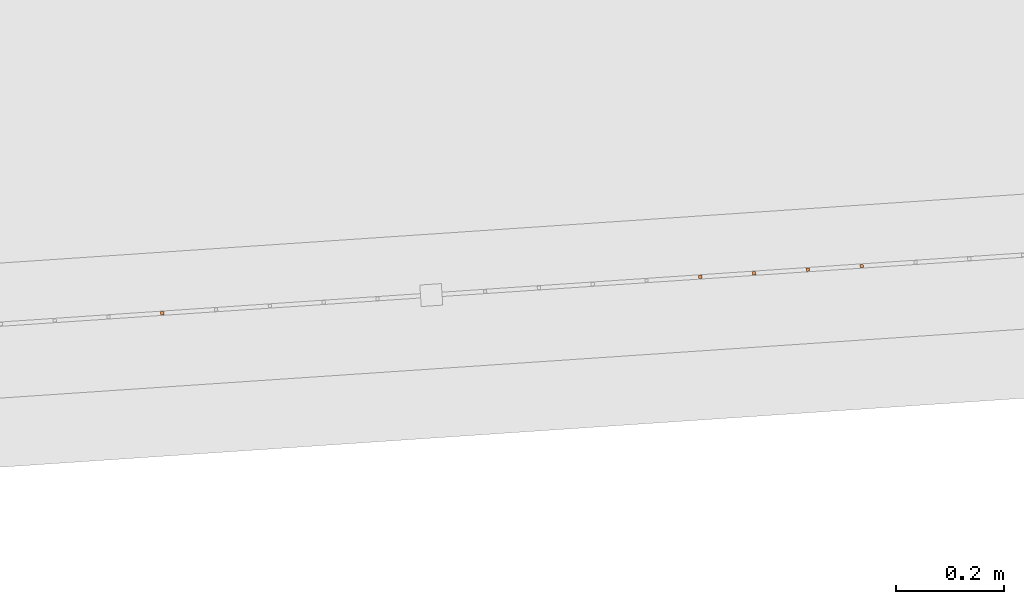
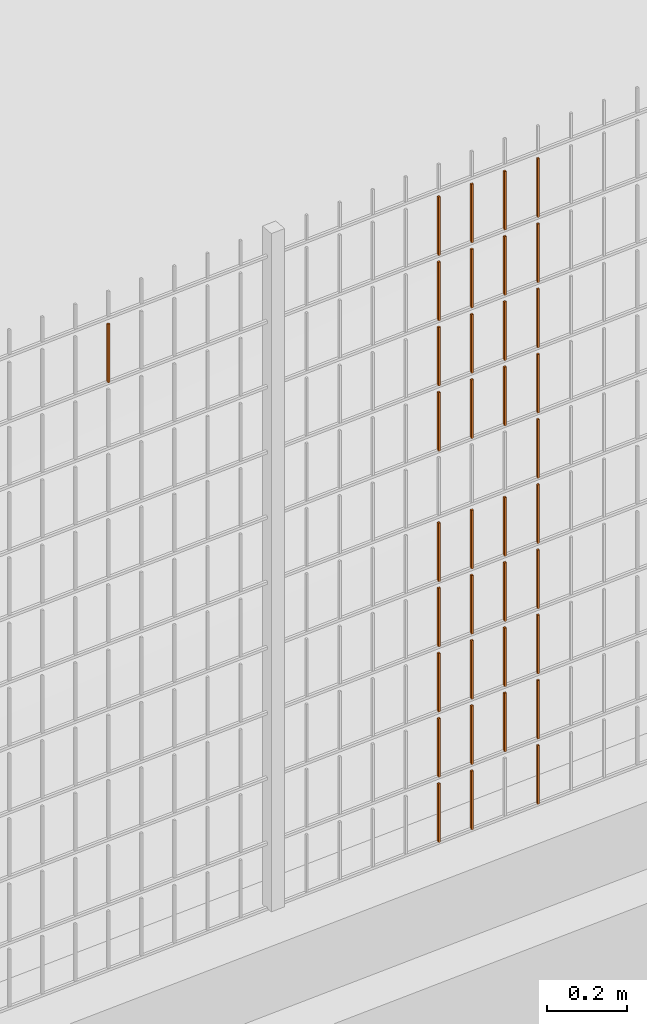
# One storey, part 162 of 1809: 37 proxies, 1 element without a shape of its own.
"""IFC2X3 building model written with IfcOpenShell, lengths in millimetres."""

from ifc_helpers import new_model, entity, si_unit, converted_unit, derived_unit, money_unit, direction, frame, origin_with_axes, place, context, subcontext, project, spatial, faceted_brep, source, transform, mapped, material, type_object, element, aggregate, save


model = new_model("IFC2X3")

# Units and contexts
model_context = context("Model", 3, precision=0.01, world=origin_with_axes(), true_north=direction((0.0, 1.0)))
body_context = subcontext(model_context, "Body", "Model", "MODEL_VIEW")
ifc_project = project(units=[si_unit("LENGTHUNIT", "METRE", prefix="MILLI"), si_unit("AREAUNIT", "SQUARE_METRE"), si_unit("VOLUMEUNIT", "CUBIC_METRE"), converted_unit("PLANEANGLEUNIT", "DEGREE", entity("IfcPlaneAngleMeasure", 0.0174532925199), si_unit("PLANEANGLEUNIT", "RADIAN"), dimensions=[0, 0, 0, 0, 0, 0, 0]), si_unit("SOLIDANGLEUNIT", "STERADIAN"), money_unit("EUR"), converted_unit("TIMEUNIT", "Year", entity("IfcTimeMeasure", 31556926.0), si_unit("TIMEUNIT", "SECOND"), dimensions=[0, 0, 1, 0, 0, 0, 0]), si_unit("MASSUNIT", "GRAM", prefix="KILO"), si_unit("THERMODYNAMICTEMPERATUREUNIT", "DEGREE_CELSIUS"), si_unit("LUMINOUSINTENSITYUNIT", "LUMEN"), si_unit("ENERGYUNIT", "JOULE", prefix="MEGA"), derived_unit("THERMALCONDUCTANCEUNIT", [(si_unit("POWERUNIT", "WATT"), 1), (si_unit("LENGTHUNIT", "METRE"), -1), (si_unit("THERMODYNAMICTEMPERATUREUNIT", "KELVIN"), -1)]), derived_unit("SPECIFICHEATCAPACITYUNIT", [(si_unit("ENERGYUNIT", "JOULE"), 1), (si_unit("MASSUNIT", "GRAM", prefix="KILO"), -1), (si_unit("THERMODYNAMICTEMPERATUREUNIT", "KELVIN"), -1)]), derived_unit("MASSDENSITYUNIT", [(si_unit("MASSUNIT", "GRAM", prefix="KILO"), 1), (si_unit("VOLUMEUNIT", "CUBIC_METRE"), -1)])], contexts=[model_context])

# Site, building, storey
site_placement = place(None, origin_with_axes())
site = spatial("IfcSite", under=ifc_project, at=site_placement, Name="Politse- ja Piirivalveameti ning Päästeameti ühishoone", CompositionType="ELEMENT")
building_placement = place(site_placement, origin_with_axes())
building = spatial("IfcBuilding", under=site, at=building_placement, Name="Politse- ja Piirivalveameti ning Päästeameti ühishoone", CompositionType="ELEMENT")
storey_placement = place(building_placement, origin_with_axes())
storey = spatial("IfcBuildingStorey", under=building, at=storey_placement, Name="Esimene korrus", CompositionType="ELEMENT", Elevation=0.0)

# Proxies
building_element_proxy_type_1 = type_object("IfcBuildingElementProxyType", Name="Railing Type", PredefinedType="NOTDEFINED")
proxy_1_placement = place(storey_placement, frame((89252.001212, -29183.4766571, 203.661247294), z_axis=(0.0, 0.0, 1.0), x_axis=(1.0, 0.0, 0.0)))
proxy_1 = element("IfcBuildingElementProxy", 1, at=proxy_1_placement, inside=storey, type_object=building_element_proxy_type_1, Name="PIIRDEAED")
ifc_material = material(Name="ET-03_Raud")
building_element_proxy_type_2 = type_object("IfcBuildingElementProxyType", Name="IfcBuildingElementProxy", PredefinedType="NOTDEFINED")
shared_shape_1 = source(origin_with_axes(), body_context, "Body", "Brep", [
    faceted_brep([(3.0, 3.0, -0.000752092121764), (-3.0, 3.0, -0.000752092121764), (-3.0, 3.0, 179.99926046), (3.0, 3.0, 179.99926046), (3.0, -3.0, 0.000752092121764), (-3.0, -3.0, 0.000752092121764), (-3.0, -3.0, 180.000764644), (3.0, -3.0, 180.000764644)], [[[0, 1, 2, 3]], [[0, 4, 5, 1]], [[1, 5, 6, 2]], [[3, 2, 6, 7]], [[4, 0, 3, 7]], [[5, 4, 7, 6]]]),
])
proxy_2_placement = place(proxy_1_placement, frame((-78847.0231836, -22623.5936197, 607.422602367), z_axis=(0.0, 0.0, 1.0), x_axis=(1.0, 0.0, 0.0)))
proxy_2 = element("IfcBuildingElementProxy", 2, at=proxy_2_placement, type_object=building_element_proxy_type_2, material=ifc_material, Name="BALUSTER - 001", context=body_context, shape_type="MappedRepresentation", body=[
    mapped(shared_shape_1, transform((0.0, 0.0, 0.0), x_axis=(-0.0673926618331, 0.997726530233, 0.0), y_axis=(-0.997726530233, -0.0673926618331, 0.0), z_axis=(0.0, 0.0, 1.0))),
])
proxy_3_placement = place(proxy_1_placement, frame((-79046.5684896, -22637.0721521, 807.372462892), z_axis=(0.0, 0.0, 1.0), x_axis=(1.0, 0.0, 0.0)))
proxy_3 = element("IfcBuildingElementProxy", 3, at=proxy_3_placement, type_object=building_element_proxy_type_2, material=ifc_material, Name="BALUSTER - 001", context=body_context, shape_type="MappedRepresentation", body=[
    mapped(shared_shape_1, transform((0.0, 0.0, 0.0), x_axis=(-0.0673926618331, 0.997726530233, 0.0), y_axis=(-0.997726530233, -0.0673926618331, 0.0), z_axis=(0.0, 0.0, 1.0))),
])
proxy_4_placement = place(proxy_1_placement, frame((-79046.5684896, -22637.0721521, 1207.37246289), z_axis=(0.0, 0.0, 1.0), x_axis=(1.0, 0.0, 0.0)))
proxy_4 = element("IfcBuildingElementProxy", 4, at=proxy_4_placement, type_object=building_element_proxy_type_2, material=ifc_material, Name="BALUSTER - 001", context=body_context, shape_type="MappedRepresentation", body=[
    mapped(shared_shape_1, transform((0.0, 0.0, 0.0), x_axis=(-0.0673926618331, 0.997726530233, 0.0), y_axis=(-0.997726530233, -0.0673926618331, 0.0), z_axis=(0.0, 0.0, 1.0))),
])
shared_shape_2 = source(origin_with_axes(), body_context, "Body", "Brep", [
    faceted_brep([(3.0, 3.0, -0.000752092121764), (-3.0, 3.0, -0.000752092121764), (-3.0, 3.0, 179.99926046), (3.0, 3.0, 179.99926046), (3.0, -3.0, 0.000752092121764), (-3.0, -3.0, 0.000752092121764), (-3.0, -3.0, 180.000764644), (3.0, -3.0, 180.000764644)], [[[0, 1, 2, 3]], [[0, 4, 5, 1]], [[1, 5, 6, 2]], [[3, 2, 6, 7]], [[4, 0, 3, 7]], [[5, 4, 7, 6]]]),
])
proxy_5_placement = place(proxy_1_placement, frame((-79046.5684896, -22637.0721521, 1407.37246289), z_axis=(0.0, 0.0, 1.0), x_axis=(1.0, 0.0, 0.0)))
proxy_5 = element("IfcBuildingElementProxy", 5, at=proxy_5_placement, type_object=building_element_proxy_type_2, material=ifc_material, Name="BALUSTER - 001", context=body_context, shape_type="MappedRepresentation", body=[
    mapped(shared_shape_2, transform((0.0, 0.0, 0.0), x_axis=(-0.0673926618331, 0.997726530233, 0.0), y_axis=(-0.997726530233, -0.0673926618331, 0.0), z_axis=(0.0, 0.0, 1.0))),
])
proxy_6_placement = place(proxy_1_placement, frame((-79046.5684896, -22637.0721521, 1607.37246289), z_axis=(0.0, 0.0, 1.0), x_axis=(1.0, 0.0, 0.0)))
proxy_6 = element("IfcBuildingElementProxy", 6, at=proxy_6_placement, type_object=building_element_proxy_type_2, material=ifc_material, Name="BALUSTER - 001", context=body_context, shape_type="MappedRepresentation", body=[
    mapped(shared_shape_2, transform((0.0, 0.0, 0.0), x_axis=(-0.0673926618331, 0.997726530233, 0.0), y_axis=(-0.997726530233, -0.0673926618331, 0.0), z_axis=(0.0, 0.0, 1.0))),
])
shared_shape_3 = source(origin_with_axes(), body_context, "Body", "Brep", [
    faceted_brep([(3.0, 3.0, -0.000752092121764), (-3.0, 3.0, -0.000752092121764), (-3.0, 3.0, 179.99926046), (3.0, 3.0, 179.99926046), (3.0, -3.0, 0.000752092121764), (-3.0, -3.0, 0.000752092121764), (-3.0, -3.0, 180.000764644), (3.0, -3.0, 180.000764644)], [[[0, 1, 2, 3]], [[0, 4, 5, 1]], [[1, 5, 6, 2]], [[3, 2, 6, 7]], [[4, 0, 3, 7]], [[5, 4, 7, 6]]]),
])
proxy_7_placement = place(proxy_1_placement, frame((-78847.0231836, -22623.5936197, 807.422602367), z_axis=(0.0, 0.0, 1.0), x_axis=(1.0, 0.0, 0.0)))
proxy_7 = element("IfcBuildingElementProxy", 7, at=proxy_7_placement, type_object=building_element_proxy_type_2, material=ifc_material, Name="BALUSTER - 001", context=body_context, shape_type="MappedRepresentation", body=[
    mapped(shared_shape_3, transform((0.0, 0.0, 0.0), x_axis=(-0.0673926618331, 0.997726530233, 0.0), y_axis=(-0.997726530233, -0.0673926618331, 0.0), z_axis=(0.0, 0.0, 1.0))),
])
proxy_8_placement = place(proxy_1_placement, frame((-79146.3411427, -22643.8114183, 807.347393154), z_axis=(0.0, 0.0, 1.0), x_axis=(1.0, 0.0, 0.0)))
proxy_8 = element("IfcBuildingElementProxy", 8, at=proxy_8_placement, type_object=building_element_proxy_type_2, material=ifc_material, Name="BALUSTER - 001", context=body_context, shape_type="MappedRepresentation", body=[
    mapped(shared_shape_3, transform((0.0, 0.0, 0.0), x_axis=(-0.0673926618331, 0.997726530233, 0.0), y_axis=(-0.997726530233, -0.0673926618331, 0.0), z_axis=(0.0, 0.0, 1.0))),
])
shared_shape_4 = source(origin_with_axes(), body_context, "Body", "Brep", [
    faceted_brep([(3.0, 3.0, -0.000752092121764), (-3.0, 3.0, -0.000752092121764), (-3.0, 3.0, 179.99926046), (3.0, 3.0, 179.99926046), (3.0, -3.0, 0.000752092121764), (-3.0, -3.0, 0.000752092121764), (-3.0, -3.0, 180.000764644), (3.0, -3.0, 180.000764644)], [[[0, 1, 2, 3]], [[0, 4, 5, 1]], [[1, 5, 6, 2]], [[3, 2, 6, 7]], [[4, 0, 3, 7]], [[5, 4, 7, 6]]]),
])
proxy_9_placement = place(proxy_1_placement, frame((-79046.5684896, -22637.0721521, 1807.37246289), z_axis=(0.0, 0.0, 1.0), x_axis=(1.0, 0.0, 0.0)))
proxy_9 = element("IfcBuildingElementProxy", 9, at=proxy_9_placement, type_object=building_element_proxy_type_2, material=ifc_material, Name="BALUSTER - 001", context=body_context, shape_type="MappedRepresentation", body=[
    mapped(shared_shape_4, transform((0.0, 0.0, 0.0), x_axis=(-0.0673926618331, 0.997726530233, 0.0), y_axis=(-0.997726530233, -0.0673926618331, 0.0), z_axis=(0.0, 0.0, 1.0))),
])
shared_shape_5 = source(origin_with_axes(), body_context, "Body", "Brep", [
    faceted_brep([(3.0, 3.0, -0.000752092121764), (-3.0, 3.0, -0.000752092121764), (-3.0, 3.0, 179.99926046), (3.0, 3.0, 179.99926046), (3.0, -3.0, 0.000752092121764), (-3.0, -3.0, 0.000752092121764), (-3.0, -3.0, 180.000764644), (3.0, -3.0, 180.000764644)], [[[0, 1, 2, 3]], [[0, 4, 5, 1]], [[1, 5, 6, 2]], [[3, 2, 6, 7]], [[4, 0, 3, 7]], [[5, 4, 7, 6]]]),
])
proxy_10_placement = place(proxy_1_placement, frame((-79046.5684896, -22637.0721521, 207.372462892), z_axis=(0.0, 0.0, 1.0), x_axis=(1.0, 0.0, 0.0)))
proxy_10 = element("IfcBuildingElementProxy", 10, at=proxy_10_placement, type_object=building_element_proxy_type_2, material=ifc_material, Name="BALUSTER - 001", context=body_context, shape_type="MappedRepresentation", body=[
    mapped(shared_shape_5, transform((0.0, 0.0, 0.0), x_axis=(-0.0673926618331, 0.997726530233, 0.0), y_axis=(-0.997726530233, -0.0673926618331, 0.0), z_axis=(0.0, 0.0, 1.0))),
])
proxy_11_placement = place(proxy_1_placement, frame((-79146.3411427, -22643.8114183, 207.347393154), z_axis=(0.0, 0.0, 1.0), x_axis=(1.0, 0.0, 0.0)))
proxy_11 = element("IfcBuildingElementProxy", 11, at=proxy_11_placement, type_object=building_element_proxy_type_2, material=ifc_material, Name="BALUSTER - 001", context=body_context, shape_type="MappedRepresentation", body=[
    mapped(shared_shape_5, transform((0.0, 0.0, 0.0), x_axis=(-0.0673926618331, 0.997726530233, 0.0), y_axis=(-0.997726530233, -0.0673926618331, 0.0), z_axis=(0.0, 0.0, 1.0))),
])
proxy_12_placement = place(proxy_1_placement, frame((-78847.0231836, -22623.5936197, 407.422602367), z_axis=(0.0, 0.0, 1.0), x_axis=(1.0, 0.0, 0.0)))
proxy_12 = element("IfcBuildingElementProxy", 12, at=proxy_12_placement, type_object=building_element_proxy_type_2, material=ifc_material, Name="BALUSTER - 001", context=body_context, shape_type="MappedRepresentation", body=[
    mapped(shared_shape_5, transform((0.0, 0.0, 0.0), x_axis=(-0.0673926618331, 0.997726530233, 0.0), y_axis=(-0.997726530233, -0.0673926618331, 0.0), z_axis=(0.0, 0.0, 1.0))),
])
proxy_13_placement = place(proxy_1_placement, frame((-79046.5684896, -22637.0721521, 407.372462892), z_axis=(0.0, 0.0, 1.0), x_axis=(1.0, 0.0, 0.0)))
proxy_13 = element("IfcBuildingElementProxy", 13, at=proxy_13_placement, type_object=building_element_proxy_type_2, material=ifc_material, Name="BALUSTER - 001", context=body_context, shape_type="MappedRepresentation", body=[
    mapped(shared_shape_5, transform((0.0, 0.0, 0.0), x_axis=(-0.0673926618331, 0.997726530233, 0.0), y_axis=(-0.997726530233, -0.0673926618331, 0.0), z_axis=(0.0, 0.0, 1.0))),
])
proxy_14_placement = place(proxy_1_placement, frame((-79046.5684896, -22637.0721521, 607.372462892), z_axis=(0.0, 0.0, 1.0), x_axis=(1.0, 0.0, 0.0)))
proxy_14 = element("IfcBuildingElementProxy", 14, at=proxy_14_placement, type_object=building_element_proxy_type_2, material=ifc_material, Name="BALUSTER - 001", context=body_context, shape_type="MappedRepresentation", body=[
    mapped(shared_shape_5, transform((0.0, 0.0, 0.0), x_axis=(-0.0673926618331, 0.997726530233, 0.0), y_axis=(-0.997726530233, -0.0673926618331, 0.0), z_axis=(0.0, 0.0, 1.0))),
])
proxy_15_placement = place(proxy_1_placement, frame((-79146.3411427, -22643.8114183, 607.347393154), z_axis=(0.0, 0.0, 1.0), x_axis=(1.0, 0.0, 0.0)))
proxy_15 = element("IfcBuildingElementProxy", 15, at=proxy_15_placement, type_object=building_element_proxy_type_2, material=ifc_material, Name="BALUSTER - 001", context=body_context, shape_type="MappedRepresentation", body=[
    mapped(shared_shape_5, transform((0.0, 0.0, 0.0), x_axis=(-0.0673926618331, 0.997726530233, 0.0), y_axis=(-0.997726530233, -0.0673926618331, 0.0), z_axis=(0.0, 0.0, 1.0))),
])
shared_shape_6 = source(origin_with_axes(), body_context, "Body", "Brep", [
    faceted_brep([(3.0, 3.0, -0.000752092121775), (-3.0, 3.0, -0.000752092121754), (-3.0, 3.0, 179.99926046), (3.0, 3.0, 179.99926046), (3.0, -3.0, 0.000752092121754), (-3.0, -3.0, 0.000752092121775), (-3.0, -3.0, 180.000764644), (3.0, -3.0, 180.000764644)], [[[0, 1, 2, 3]], [[0, 4, 5, 1]], [[1, 5, 6, 2]], [[3, 2, 6, 7]], [[4, 0, 3, 7]], [[5, 4, 7, 6]]]),
])
proxy_16_placement = place(proxy_1_placement, frame((-79146.3411427, -22643.8114183, 1807.34739315), z_axis=(0.0, 0.0, 1.0), x_axis=(1.0, 0.0, 0.0)))
proxy_16 = element("IfcBuildingElementProxy", 16, at=proxy_16_placement, type_object=building_element_proxy_type_2, material=ifc_material, Name="BALUSTER - 001", context=body_context, shape_type="MappedRepresentation", body=[
    mapped(shared_shape_6, transform((0.0, 0.0, 0.0), x_axis=(-0.0673926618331, 0.997726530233, 0.0), y_axis=(-0.997726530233, -0.0673926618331, 0.0), z_axis=(0.0, 0.0, 1.0))),
])
shared_shape_7 = source(origin_with_axes(), body_context, "Body", "Brep", [
    faceted_brep([(3.0, 3.0, -0.000752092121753), (-3.0, 3.0, -0.000752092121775), (-3.0, 3.0, 179.99926046), (3.0, 3.0, 179.99926046), (3.0, -3.0, 0.000752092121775), (-3.0, -3.0, 0.000752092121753), (-3.0, -3.0, 180.000764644), (3.0, -3.0, 180.000764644)], [[[0, 1, 2, 3]], [[0, 4, 5, 1]], [[1, 5, 6, 2]], [[3, 2, 6, 7]], [[4, 0, 3, 7]], [[5, 4, 7, 6]]]),
])
proxy_17_placement = place(proxy_1_placement, frame((-78847.0231836, -22623.5936197, 1807.42260237), z_axis=(0.0, 0.0, 1.0), x_axis=(1.0, 0.0, 0.0)))
proxy_17 = element("IfcBuildingElementProxy", 17, at=proxy_17_placement, type_object=building_element_proxy_type_2, material=ifc_material, Name="BALUSTER - 001", context=body_context, shape_type="MappedRepresentation", body=[
    mapped(shared_shape_7, transform((0.0, 0.0, 0.0), x_axis=(-0.0673926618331, 0.997726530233, 0.0), y_axis=(-0.997726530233, -0.0673926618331, 0.0), z_axis=(0.0, 0.0, 1.0))),
])
shared_shape_8 = source(origin_with_axes(), body_context, "Body", "Brep", [
    faceted_brep([(3.0, 3.0, -0.000752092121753), (-3.0, 3.0, -0.000752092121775), (-3.0, 3.0, 179.99926046), (3.0, 3.0, 179.99926046), (3.0, -3.0, 0.000752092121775), (-3.0, -3.0, 0.000752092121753), (-3.0, -3.0, 180.000764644), (3.0, -3.0, 180.000764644)], [[[0, 1, 2, 3]], [[0, 4, 5, 1]], [[1, 5, 6, 2]], [[3, 2, 6, 7]], [[4, 0, 3, 7]], [[5, 4, 7, 6]]]),
])
proxy_18_placement = place(proxy_1_placement, frame((-78847.0231836, -22623.5936197, 1207.42260237), z_axis=(0.0, 0.0, 1.0), x_axis=(1.0, 0.0, 0.0)))
proxy_18 = element("IfcBuildingElementProxy", 18, at=proxy_18_placement, type_object=building_element_proxy_type_2, material=ifc_material, Name="BALUSTER - 001", context=body_context, shape_type="MappedRepresentation", body=[
    mapped(shared_shape_8, transform((0.0, 0.0, 0.0), x_axis=(-0.0673926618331, 0.997726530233, 0.0), y_axis=(-0.997726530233, -0.0673926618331, 0.0), z_axis=(0.0, 0.0, 1.0))),
])
shared_shape_9 = source(origin_with_axes(), body_context, "Body", "Brep", [
    faceted_brep([(3.0, 3.0, -0.000752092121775), (-3.0, 3.0, -0.000752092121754), (-3.0, 3.0, 179.99926046), (3.0, 3.0, 179.99926046), (3.0, -3.0, 0.000752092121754), (-3.0, -3.0, 0.000752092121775), (-3.0, -3.0, 180.000764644), (3.0, -3.0, 180.000764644)], [[[0, 1, 2, 3]], [[0, 4, 5, 1]], [[1, 5, 6, 2]], [[3, 2, 6, 7]], [[4, 0, 3, 7]], [[5, 4, 7, 6]]]),
])
proxy_19_placement = place(proxy_1_placement, frame((-79146.3411427, -22643.8114183, 1207.34739315), z_axis=(0.0, 0.0, 1.0), x_axis=(1.0, 0.0, 0.0)))
proxy_19 = element("IfcBuildingElementProxy", 19, at=proxy_19_placement, type_object=building_element_proxy_type_2, material=ifc_material, Name="BALUSTER - 001", context=body_context, shape_type="MappedRepresentation", body=[
    mapped(shared_shape_9, transform((0.0, 0.0, 0.0), x_axis=(-0.0673926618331, 0.997726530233, 0.0), y_axis=(-0.997726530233, -0.0673926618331, 0.0), z_axis=(0.0, 0.0, 1.0))),
])
shared_shape_10 = source(origin_with_axes(), body_context, "Body", "Brep", [
    faceted_brep([(3.0, 3.0, -0.000752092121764), (-3.0, 3.0, -0.000752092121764), (-3.0, 3.0, 179.99926046), (3.0, 3.0, 179.99926046), (3.0, -3.0, 0.000752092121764), (-3.0, -3.0, 0.000752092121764), (-3.0, -3.0, 180.000764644), (3.0, -3.0, 180.000764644)], [[[0, 1, 2, 3]], [[0, 4, 5, 1]], [[1, 5, 6, 2]], [[3, 2, 6, 7]], [[4, 0, 3, 7]], [[5, 4, 7, 6]]]),
])
proxy_20_placement = place(proxy_1_placement, frame((-79146.3411427, -22643.8114183, 407.347393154), z_axis=(0.0, 0.0, 1.0), x_axis=(1.0, 0.0, 0.0)))
proxy_20 = element("IfcBuildingElementProxy", 20, at=proxy_20_placement, type_object=building_element_proxy_type_2, material=ifc_material, Name="BALUSTER - 001", context=body_context, shape_type="MappedRepresentation", body=[
    mapped(shared_shape_10, transform((0.0, 0.0, 0.0), x_axis=(-0.0673926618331, 0.997726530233, 0.0), y_axis=(-0.997726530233, -0.0673926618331, 0.0), z_axis=(0.0, 0.0, 1.0))),
])
shared_shape_11 = source(origin_with_axes(), body_context, "Body", "Brep", [
    faceted_brep([(3.0, 3.0, -0.000752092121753), (-3.0, 3.0, -0.000752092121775), (-3.0, 3.0, 179.99926046), (3.0, 3.0, 179.99926046), (3.0, -3.0, 0.000752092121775), (-3.0, -3.0, 0.000752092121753), (-3.0, -3.0, 180.000764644), (3.0, -3.0, 180.000764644)], [[[0, 1, 2, 3]], [[0, 4, 5, 1]], [[1, 5, 6, 2]], [[3, 2, 6, 7]], [[4, 0, 3, 7]], [[5, 4, 7, 6]]]),
])
proxy_21_placement = place(proxy_1_placement, frame((-78847.0231836, -22623.5936197, 1407.42260237), z_axis=(0.0, 0.0, 1.0), x_axis=(1.0, 0.0, 0.0)))
proxy_21 = element("IfcBuildingElementProxy", 21, at=proxy_21_placement, type_object=building_element_proxy_type_2, material=ifc_material, Name="BALUSTER - 001", context=body_context, shape_type="MappedRepresentation", body=[
    mapped(shared_shape_11, transform((0.0, 0.0, 0.0), x_axis=(-0.0673926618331, 0.997726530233, 0.0), y_axis=(-0.997726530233, -0.0673926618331, 0.0), z_axis=(0.0, 0.0, 1.0))),
])
proxy_22_placement = place(proxy_1_placement, frame((-78847.0231836, -22623.5936197, 1607.42260237), z_axis=(0.0, 0.0, 1.0), x_axis=(1.0, 0.0, 0.0)))
proxy_22 = element("IfcBuildingElementProxy", 22, at=proxy_22_placement, type_object=building_element_proxy_type_2, material=ifc_material, Name="BALUSTER - 001", context=body_context, shape_type="MappedRepresentation", body=[
    mapped(shared_shape_11, transform((0.0, 0.0, 0.0), x_axis=(-0.0673926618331, 0.997726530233, 0.0), y_axis=(-0.997726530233, -0.0673926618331, 0.0), z_axis=(0.0, 0.0, 1.0))),
])
shared_shape_12 = source(origin_with_axes(), body_context, "Body", "Brep", [
    faceted_brep([(3.0, 3.0, -0.000752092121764), (-3.0, 3.0, -0.000752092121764), (-3.0, 3.0, 179.99926046), (3.0, 3.0, 179.99926046), (3.0, -3.0, 0.000752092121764), (-3.0, -3.0, 0.000752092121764), (-3.0, -3.0, 180.000764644), (3.0, -3.0, 180.000764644)], [[[0, 1, 2, 3]], [[0, 4, 5, 1]], [[1, 5, 6, 2]], [[3, 2, 6, 7]], [[4, 0, 3, 7]], [[5, 4, 7, 6]]]),
])
proxy_23_placement = place(proxy_1_placement, frame((-78847.0231836, -22623.5936197, 7.42260236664), z_axis=(0.0, 0.0, 1.0), x_axis=(1.0, 0.0, 0.0)))
proxy_23 = element("IfcBuildingElementProxy", 23, at=proxy_23_placement, type_object=building_element_proxy_type_2, material=ifc_material, Name="BALUSTER - 001", context=body_context, shape_type="MappedRepresentation", body=[
    mapped(shared_shape_12, transform((0.0, 0.0, 0.0), x_axis=(-0.0673926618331, 0.997726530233, 0.0), y_axis=(-0.997726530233, -0.0673926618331, 0.0), z_axis=(0.0, 0.0, 1.0))),
])
proxy_24_placement = place(proxy_1_placement, frame((-79046.5684896, -22637.0721521, 7.37246289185), z_axis=(0.0, 0.0, 1.0), x_axis=(1.0, 0.0, 0.0)))
proxy_24 = element("IfcBuildingElementProxy", 24, at=proxy_24_placement, type_object=building_element_proxy_type_2, material=ifc_material, Name="BALUSTER - 001", context=body_context, shape_type="MappedRepresentation", body=[
    mapped(shared_shape_12, transform((0.0, 0.0, 0.0), x_axis=(-0.0673926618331, 0.997726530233, 0.0), y_axis=(-0.997726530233, -0.0673926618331, 0.0), z_axis=(0.0, 0.0, 1.0))),
])
proxy_25_placement = place(proxy_1_placement, frame((-78847.0231836, -22623.5936197, 207.422602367), z_axis=(0.0, 0.0, 1.0), x_axis=(1.0, 0.0, 0.0)))
proxy_25 = element("IfcBuildingElementProxy", 25, at=proxy_25_placement, type_object=building_element_proxy_type_2, material=ifc_material, Name="BALUSTER - 001", context=body_context, shape_type="MappedRepresentation", body=[
    mapped(shared_shape_12, transform((0.0, 0.0, 0.0), x_axis=(-0.0673926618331, 0.997726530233, 0.0), y_axis=(-0.997726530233, -0.0673926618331, 0.0), z_axis=(0.0, 0.0, 1.0))),
])
shared_shape_13 = source(origin_with_axes(), body_context, "Body", "Brep", [
    faceted_brep([(3.0, 3.0, -0.000752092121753), (-3.0, 3.0, -0.000752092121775), (-3.0, 3.0, 179.99926046), (3.0, 3.0, 179.99926046), (3.0, -3.0, 0.000752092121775), (-3.0, -3.0, 0.000752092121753), (-3.0, -3.0, 180.000764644), (3.0, -3.0, 180.000764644)], [[[0, 1, 2, 3]], [[0, 4, 5, 1]], [[1, 5, 6, 2]], [[3, 2, 6, 7]], [[4, 0, 3, 7]], [[5, 4, 7, 6]]]),
])
proxy_26_placement = place(proxy_1_placement, frame((-80144.0676729, -22711.2040801, 1807.09669578), z_axis=(0.0, 0.0, 1.0), x_axis=(1.0, 0.0, 0.0)))
proxy_26 = element("IfcBuildingElementProxy", 26, at=proxy_26_placement, type_object=building_element_proxy_type_2, material=ifc_material, Name="BALUSTER - 001", context=body_context, shape_type="MappedRepresentation", body=[
    mapped(shared_shape_13, transform((0.0, 0.0, 0.0), x_axis=(-0.0673926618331, 0.997726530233, 0.0), y_axis=(-0.997726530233, -0.0673926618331, 0.0), z_axis=(0.0, 0.0, 1.0))),
])
shared_shape_14 = source(origin_with_axes(), body_context, "Body", "Brep", [
    faceted_brep([(3.0, 3.0, -0.000752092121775), (-3.0, 3.0, -0.000752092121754), (-3.0, 3.0, 179.99926046), (3.0, 3.0, 179.99926046), (3.0, -3.0, 0.000752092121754), (-3.0, -3.0, 0.000752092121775), (-3.0, -3.0, 180.000764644), (3.0, -3.0, 180.000764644)], [[[0, 1, 2, 3]], [[0, 4, 5, 1]], [[1, 5, 6, 2]], [[3, 2, 6, 7]], [[4, 0, 3, 7]], [[5, 4, 7, 6]]]),
])
proxy_27_placement = place(proxy_1_placement, frame((-79146.3411427, -22643.8114183, 1407.34739315), z_axis=(0.0, 0.0, 1.0), x_axis=(1.0, 0.0, 0.0)))
proxy_27 = element("IfcBuildingElementProxy", 27, at=proxy_27_placement, type_object=building_element_proxy_type_2, material=ifc_material, Name="BALUSTER - 001", context=body_context, shape_type="MappedRepresentation", body=[
    mapped(shared_shape_14, transform((0.0, 0.0, 0.0), x_axis=(-0.0673926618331, 0.997726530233, 0.0), y_axis=(-0.997726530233, -0.0673926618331, 0.0), z_axis=(0.0, 0.0, 1.0))),
])
proxy_28_placement = place(proxy_1_placement, frame((-79146.3411427, -22643.8114183, 1607.34739315), z_axis=(0.0, 0.0, 1.0), x_axis=(1.0, 0.0, 0.0)))
proxy_28 = element("IfcBuildingElementProxy", 28, at=proxy_28_placement, type_object=building_element_proxy_type_2, material=ifc_material, Name="BALUSTER - 001", context=body_context, shape_type="MappedRepresentation", body=[
    mapped(shared_shape_14, transform((0.0, 0.0, 0.0), x_axis=(-0.0673926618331, 0.997726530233, 0.0), y_axis=(-0.997726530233, -0.0673926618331, 0.0), z_axis=(0.0, 0.0, 1.0))),
])
shared_shape_15 = source(origin_with_axes(), body_context, "Body", "Brep", [
    faceted_brep([(3.0, 3.0, -0.000752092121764), (-3.0, 3.0, -0.000752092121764), (-3.0, 3.0, 179.99926046), (3.0, 3.0, 179.99926046), (3.0, -3.0, 0.000752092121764), (-3.0, -3.0, 0.000752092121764), (-3.0, -3.0, 180.000764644), (3.0, -3.0, 180.000764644)], [[[0, 1, 2, 3]], [[0, 4, 5, 1]], [[1, 5, 6, 2]], [[3, 2, 6, 7]], [[4, 0, 3, 7]], [[5, 4, 7, 6]]]),
])
proxy_29_placement = place(proxy_1_placement, frame((-79146.3411427, -22643.8114183, 7.34739315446), z_axis=(0.0, 0.0, 1.0), x_axis=(1.0, 0.0, 0.0)))
proxy_29 = element("IfcBuildingElementProxy", 29, at=proxy_29_placement, type_object=building_element_proxy_type_2, material=ifc_material, Name="BALUSTER - 001", context=body_context, shape_type="MappedRepresentation", body=[
    mapped(shared_shape_15, transform((0.0, 0.0, 0.0), x_axis=(-0.0673926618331, 0.997726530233, 0.0), y_axis=(-0.997726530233, -0.0673926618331, 0.0), z_axis=(0.0, 0.0, 1.0))),
])
shared_shape_16 = source(origin_with_axes(), body_context, "Body", "Brep", [
    faceted_brep([(3.0, 3.0, -0.000752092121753), (-3.0, 3.0, -0.000752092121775), (-3.0, 3.0, 179.99926046), (3.0, 3.0, 179.99926046), (3.0, -3.0, 0.000752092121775), (-3.0, -3.0, 0.000752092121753), (-3.0, -3.0, 180.000764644), (3.0, -3.0, 180.000764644)], [[[0, 1, 2, 3]], [[0, 4, 5, 1]], [[1, 5, 6, 2]], [[3, 2, 6, 7]], [[4, 0, 3, 7]], [[5, 4, 7, 6]]]),
])
proxy_30_placement = place(proxy_1_placement, frame((-78847.0231836, -22623.5936197, 1007.42260237), z_axis=(0.0, 0.0, 1.0), x_axis=(1.0, 0.0, 0.0)))
proxy_30 = element("IfcBuildingElementProxy", 30, at=proxy_30_placement, type_object=building_element_proxy_type_2, material=ifc_material, Name="BALUSTER - 001", context=body_context, shape_type="MappedRepresentation", body=[
    mapped(shared_shape_16, transform((0.0, 0.0, 0.0), x_axis=(-0.0673926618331, 0.997726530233, 0.0), y_axis=(-0.997726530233, -0.0673926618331, 0.0), z_axis=(0.0, 0.0, 1.0))),
])
shared_shape_17 = source(origin_with_axes(), body_context, "Body", "Brep", [
    faceted_brep([(3.0, 3.0, -0.000752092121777), (-3.0, 3.0, -0.000752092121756), (-3.0, 3.0, 179.99926046), (3.0, 3.0, 179.99926046), (3.0, -3.0, 0.000752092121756), (-3.0, -3.0, 0.000752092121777), (-3.0, -3.0, 180.000764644), (3.0, -3.0, 180.000764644)], [[[0, 1, 2, 3]], [[0, 4, 5, 1]], [[1, 5, 6, 2]], [[3, 2, 6, 7]], [[4, 0, 3, 7]], [[5, 4, 7, 6]]]),
])
proxy_31_placement = place(proxy_1_placement, frame((-78946.7958366, -22630.3328859, 207.397532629), z_axis=(0.0, 0.0, 1.0), x_axis=(1.0, 0.0, 0.0)))
proxy_31 = element("IfcBuildingElementProxy", 31, at=proxy_31_placement, type_object=building_element_proxy_type_2, material=ifc_material, Name="BALUSTER - 001", context=body_context, shape_type="MappedRepresentation", body=[
    mapped(shared_shape_17, transform((0.0, 0.0, 0.0), x_axis=(-0.0673926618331, 0.997726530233, 0.0), y_axis=(-0.997726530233, -0.0673926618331, 0.0), z_axis=(0.0, 0.0, 1.0))),
])
shared_shape_18 = source(origin_with_axes(), body_context, "Body", "Brep", [
    faceted_brep([(3.0, 3.0, -0.000752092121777), (-3.0, 3.0, -0.000752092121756), (-3.0, 3.0, 179.99926046), (3.0, 3.0, 179.99926046), (3.0, -3.0, 0.000752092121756), (-3.0, -3.0, 0.000752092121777), (-3.0, -3.0, 180.000764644), (3.0, -3.0, 180.000764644)], [[[0, 1, 2, 3]], [[0, 4, 5, 1]], [[1, 5, 6, 2]], [[3, 2, 6, 7]], [[4, 0, 3, 7]], [[5, 4, 7, 6]]]),
])
proxy_32_placement = place(proxy_1_placement, frame((-78946.7958366, -22630.3328859, 407.397532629), z_axis=(0.0, 0.0, 1.0), x_axis=(1.0, 0.0, 0.0)))
proxy_32 = element("IfcBuildingElementProxy", 32, at=proxy_32_placement, type_object=building_element_proxy_type_2, material=ifc_material, Name="BALUSTER - 001", context=body_context, shape_type="MappedRepresentation", body=[
    mapped(shared_shape_18, transform((0.0, 0.0, 0.0), x_axis=(-0.0673926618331, 0.997726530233, 0.0), y_axis=(-0.997726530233, -0.0673926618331, 0.0), z_axis=(0.0, 0.0, 1.0))),
])
proxy_33_placement = place(proxy_1_placement, frame((-78946.7958366, -22630.3328859, 607.397532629), z_axis=(0.0, 0.0, 1.0), x_axis=(1.0, 0.0, 0.0)))
proxy_33 = element("IfcBuildingElementProxy", 33, at=proxy_33_placement, type_object=building_element_proxy_type_2, material=ifc_material, Name="BALUSTER - 001", context=body_context, shape_type="MappedRepresentation", body=[
    mapped(shared_shape_18, transform((0.0, 0.0, 0.0), x_axis=(-0.0673926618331, 0.997726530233, 0.0), y_axis=(-0.997726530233, -0.0673926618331, 0.0), z_axis=(0.0, 0.0, 1.0))),
])
shared_shape_19 = source(origin_with_axes(), body_context, "Body", "Brep", [
    faceted_brep([(3.0, 3.0, -0.000752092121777), (-3.0, 3.0, -0.000752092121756), (-3.0, 3.0, 179.99926046), (3.0, 3.0, 179.99926046), (3.0, -3.0, 0.000752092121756), (-3.0, -3.0, 0.000752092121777), (-3.0, -3.0, 180.000764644), (3.0, -3.0, 180.000764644)], [[[0, 1, 2, 3]], [[0, 4, 5, 1]], [[1, 5, 6, 2]], [[3, 2, 6, 7]], [[4, 0, 3, 7]], [[5, 4, 7, 6]]]),
])
proxy_34_placement = place(proxy_1_placement, frame((-78946.7958366, -22630.3328859, 807.397532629), z_axis=(0.0, 0.0, 1.0), x_axis=(1.0, 0.0, 0.0)))
proxy_34 = element("IfcBuildingElementProxy", 34, at=proxy_34_placement, type_object=building_element_proxy_type_2, material=ifc_material, Name="BALUSTER - 001", context=body_context, shape_type="MappedRepresentation", body=[
    mapped(shared_shape_19, transform((0.0, 0.0, 0.0), x_axis=(-0.0673926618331, 0.997726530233, 0.0), y_axis=(-0.997726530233, -0.0673926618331, 0.0), z_axis=(0.0, 0.0, 1.0))),
])
proxy_35_placement = place(proxy_1_placement, frame((-78946.7958366, -22630.3328859, 1207.39753263), z_axis=(0.0, 0.0, 1.0), x_axis=(1.0, 0.0, 0.0)))
proxy_35 = element("IfcBuildingElementProxy", 35, at=proxy_35_placement, type_object=building_element_proxy_type_2, material=ifc_material, Name="BALUSTER - 001", context=body_context, shape_type="MappedRepresentation", body=[
    mapped(shared_shape_19, transform((0.0, 0.0, 0.0), x_axis=(-0.0673926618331, 0.997726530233, 0.0), y_axis=(-0.997726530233, -0.0673926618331, 0.0), z_axis=(0.0, 0.0, 1.0))),
])
shared_shape_20 = source(origin_with_axes(), body_context, "Body", "Brep", [
    faceted_brep([(3.0, 3.0, -0.000752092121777), (-3.0, 3.0, -0.000752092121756), (-3.0, 3.0, 179.99926046), (3.0, 3.0, 179.99926046), (3.0, -3.0, 0.000752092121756), (-3.0, -3.0, 0.000752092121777), (-3.0, -3.0, 180.000764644), (3.0, -3.0, 180.000764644)], [[[0, 1, 2, 3]], [[0, 4, 5, 1]], [[1, 5, 6, 2]], [[3, 2, 6, 7]], [[4, 0, 3, 7]], [[5, 4, 7, 6]]]),
])
proxy_36_placement = place(proxy_1_placement, frame((-78946.7958366, -22630.3328859, 1407.39753263), z_axis=(0.0, 0.0, 1.0), x_axis=(1.0, 0.0, 0.0)))
proxy_36 = element("IfcBuildingElementProxy", 36, at=proxy_36_placement, type_object=building_element_proxy_type_2, material=ifc_material, Name="BALUSTER - 001", context=body_context, shape_type="MappedRepresentation", body=[
    mapped(shared_shape_20, transform((0.0, 0.0, 0.0), x_axis=(-0.0673926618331, 0.997726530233, 0.0), y_axis=(-0.997726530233, -0.0673926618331, 0.0), z_axis=(0.0, 0.0, 1.0))),
])
proxy_37_placement = place(proxy_1_placement, frame((-78946.7958366, -22630.3328859, 1607.39753263), z_axis=(0.0, 0.0, 1.0), x_axis=(1.0, 0.0, 0.0)))
proxy_37 = element("IfcBuildingElementProxy", 37, at=proxy_37_placement, type_object=building_element_proxy_type_2, material=ifc_material, Name="BALUSTER - 001", context=body_context, shape_type="MappedRepresentation", body=[
    mapped(shared_shape_20, transform((0.0, 0.0, 0.0), x_axis=(-0.0673926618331, 0.997726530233, 0.0), y_axis=(-0.997726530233, -0.0673926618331, 0.0), z_axis=(0.0, 0.0, 1.0))),
])
shared_shape_21 = source(origin_with_axes(), body_context, "Body", "Brep", [
    faceted_brep([(3.0, 3.0, -0.000752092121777), (-3.0, 3.0, -0.000752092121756), (-3.0, 3.0, 179.99926046), (3.0, 3.0, 179.99926046), (3.0, -3.0, 0.000752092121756), (-3.0, -3.0, 0.000752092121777), (-3.0, -3.0, 180.000764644), (3.0, -3.0, 180.000764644)], [[[0, 1, 2, 3]], [[0, 4, 5, 1]], [[1, 5, 6, 2]], [[3, 2, 6, 7]], [[4, 0, 3, 7]], [[5, 4, 7, 6]]]),
])
proxy_38_placement = place(proxy_1_placement, frame((-78946.7958366, -22630.3328859, 1807.39753263), z_axis=(0.0, 0.0, 1.0), x_axis=(1.0, 0.0, 0.0)))
proxy_38 = element("IfcBuildingElementProxy", 38, at=proxy_38_placement, type_object=building_element_proxy_type_2, material=ifc_material, Name="BALUSTER - 001", context=body_context, shape_type="MappedRepresentation", body=[
    mapped(shared_shape_21, transform((0.0, 0.0, 0.0), x_axis=(-0.0673926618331, 0.997726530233, 0.0), y_axis=(-0.997726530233, -0.0673926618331, 0.0), z_axis=(0.0, 0.0, 1.0))),
])
aggregate(proxy_1, [proxy_23, proxy_24, proxy_29, proxy_25, proxy_31, proxy_10, proxy_11, proxy_12, proxy_32, proxy_13, proxy_20, proxy_2, proxy_33, proxy_14, proxy_15, proxy_7, proxy_34, proxy_3, proxy_8, proxy_30, proxy_18, proxy_35, proxy_4, proxy_19, proxy_21, proxy_36, proxy_5, proxy_27, proxy_22, proxy_37, proxy_6, proxy_28, proxy_17, proxy_38, proxy_9, proxy_16, proxy_26])

save(model, "model.ifc")
